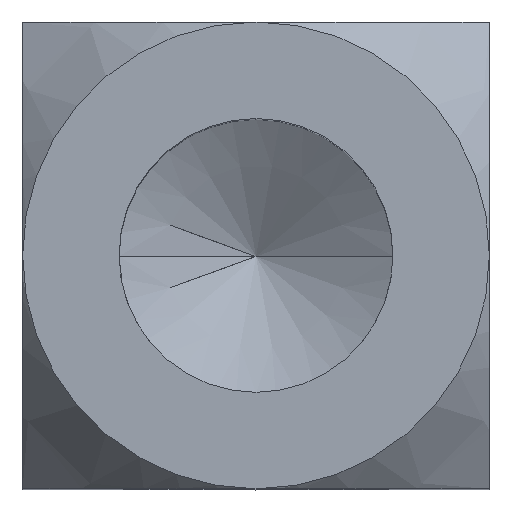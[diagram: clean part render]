
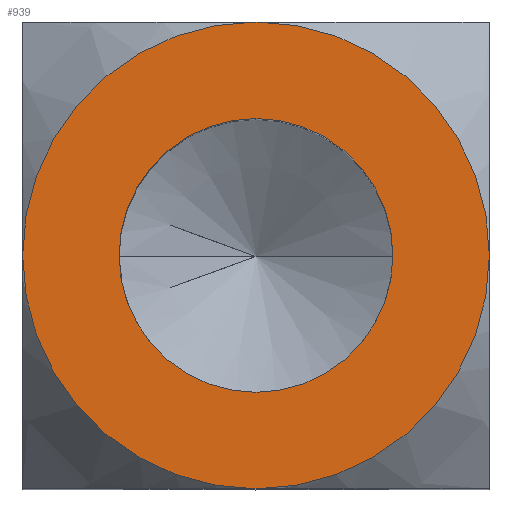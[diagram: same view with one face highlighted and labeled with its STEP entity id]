
A CAD part, top view. The second image highlights one B-rep face of the part: STEP entity #939.
In plain terms, the highlighted planar face has unit normal (0, 0, 1).
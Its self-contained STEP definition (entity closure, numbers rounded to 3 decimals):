
#3 = CARTESIAN_POINT ( 'NONE',  ( 0., -7.5, 22. ) ) ;
#5 = EDGE_LOOP ( 'NONE', ( #779, #463, #963, #257 ) ) ;
#11 = EDGE_CURVE ( 'NONE', #169, #669, #477, .T. ) ;
#14 = CIRCLE ( 'NONE', #110, 4.4 ) ;
#54 = DIRECTION ( 'NONE',  ( 0., 0., 1. ) ) ;
#76 = CARTESIAN_POINT ( 'NONE',  ( -7.5, 0., 22. ) ) ;
#98 = EDGE_LOOP ( 'NONE', ( #144, #1106 ) ) ;
#110 = AXIS2_PLACEMENT_3D ( 'NONE', #470, #888, #722 ) ;
#130 = AXIS2_PLACEMENT_3D ( 'NONE', #136, #388, #143 ) ;
#136 = CARTESIAN_POINT ( 'NONE',  ( 0., 0., 22. ) ) ;
#143 = DIRECTION ( 'NONE',  ( -1., 0., 0. ) ) ;
#144 = ORIENTED_EDGE ( 'NONE', *, *, #353, .F. ) ;
#169 = VERTEX_POINT ( 'NONE', #448 ) ;
#173 = DIRECTION ( 'NONE',  ( -1., 0., 0. ) ) ;
#224 = FACE_OUTER_BOUND ( 'NONE', #5, .T. ) ;
#257 = ORIENTED_EDGE ( 'NONE', *, *, #1089, .T. ) ;
#293 = EDGE_CURVE ( 'NONE', #396, #985, #14, .T. ) ;
#309 = DIRECTION ( 'NONE',  ( 1., 0., 0. ) ) ;
#324 = DIRECTION ( 'NONE',  ( 0., 0., 1. ) ) ;
#326 = AXIS2_PLACEMENT_3D ( 'NONE', #853, #771, #173 ) ;
#353 = EDGE_CURVE ( 'NONE', #985, #396, #619, .T. ) ;
#361 = DIRECTION ( 'NONE',  ( 0., -1., 0. ) ) ;
#368 = EDGE_CURVE ( 'NONE', #720, #1112, #854, .T. ) ;
#376 = CIRCLE ( 'NONE', #326, 7.5 ) ;
#388 = DIRECTION ( 'NONE',  ( 0., 0., 1. ) ) ;
#396 = VERTEX_POINT ( 'NONE', #618 ) ;
#425 = DIRECTION ( 'NONE',  ( -1., 0., 0. ) ) ;
#448 = CARTESIAN_POINT ( 'NONE',  ( 0., 7.5, 22. ) ) ;
#463 = ORIENTED_EDGE ( 'NONE', *, *, #716, .T. ) ;
#468 = DIRECTION ( 'NONE',  ( 0., 0., 1. ) ) ;
#470 = CARTESIAN_POINT ( 'NONE',  ( 0., 0., 22. ) ) ;
#477 = CIRCLE ( 'NONE', #130, 7.5 ) ;
#556 = CARTESIAN_POINT ( 'NONE',  ( 0., 0., 22. ) ) ;
#618 = CARTESIAN_POINT ( 'NONE',  ( -4.4, 0., 22. ) ) ;
#619 = CIRCLE ( 'NONE', #1053, 4.4 ) ;
#621 = AXIS2_PLACEMENT_3D ( 'NONE', #738, #324, #309 ) ;
#653 = CIRCLE ( 'NONE', #958, 7.5 ) ;
#669 = VERTEX_POINT ( 'NONE', #76 ) ;
#677 = CARTESIAN_POINT ( 'NONE',  ( 7.5, 0., 22. ) ) ;
#716 = EDGE_CURVE ( 'NONE', #1112, #169, #376, .T. ) ;
#720 = VERTEX_POINT ( 'NONE', #3 ) ;
#722 = DIRECTION ( 'NONE',  ( 0., -1., 0. ) ) ;
#738 = CARTESIAN_POINT ( 'NONE',  ( -7.59, -7.59, 22. ) ) ;
#744 = FACE_BOUND ( 'NONE', #98, .T. ) ;
#771 = DIRECTION ( 'NONE',  ( 0., 0., 1. ) ) ;
#779 = ORIENTED_EDGE ( 'NONE', *, *, #368, .T. ) ;
#814 = AXIS2_PLACEMENT_3D ( 'NONE', #893, #1068, #959 ) ;
#832 = CARTESIAN_POINT ( 'NONE',  ( 0., 0., 22. ) ) ;
#853 = CARTESIAN_POINT ( 'NONE',  ( 0., 0., 22. ) ) ;
#854 = CIRCLE ( 'NONE', #814, 7.5 ) ;
#888 = DIRECTION ( 'NONE',  ( 0., 0., 1. ) ) ;
#893 = CARTESIAN_POINT ( 'NONE',  ( 0., 0., 22. ) ) ;
#939 = ADVANCED_FACE ( 'NONE', ( #744, #224 ), #1015, .T. ) ;
#958 = AXIS2_PLACEMENT_3D ( 'NONE', #832, #54, #425 ) ;
#959 = DIRECTION ( 'NONE',  ( -1., 0., 0. ) ) ;
#963 = ORIENTED_EDGE ( 'NONE', *, *, #11, .T. ) ;
#985 = VERTEX_POINT ( 'NONE', #1091 ) ;
#1015 = PLANE ( 'NONE',  #621 ) ;
#1053 = AXIS2_PLACEMENT_3D ( 'NONE', #556, #468, #361 ) ;
#1068 = DIRECTION ( 'NONE',  ( 0., 0., 1. ) ) ;
#1089 = EDGE_CURVE ( 'NONE', #669, #720, #653, .T. ) ;
#1091 = CARTESIAN_POINT ( 'NONE',  ( 4.4, 0., 22. ) ) ;
#1106 = ORIENTED_EDGE ( 'NONE', *, *, #293, .F. ) ;
#1112 = VERTEX_POINT ( 'NONE', #677 ) ;
